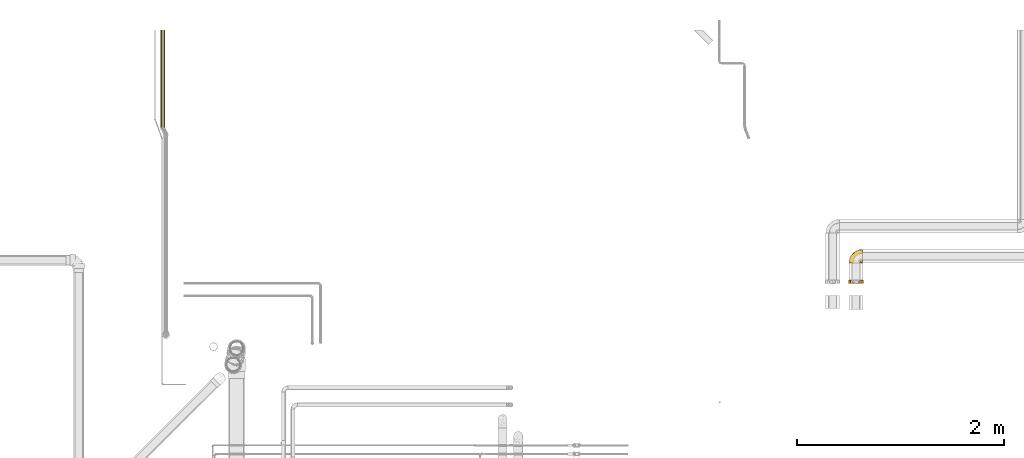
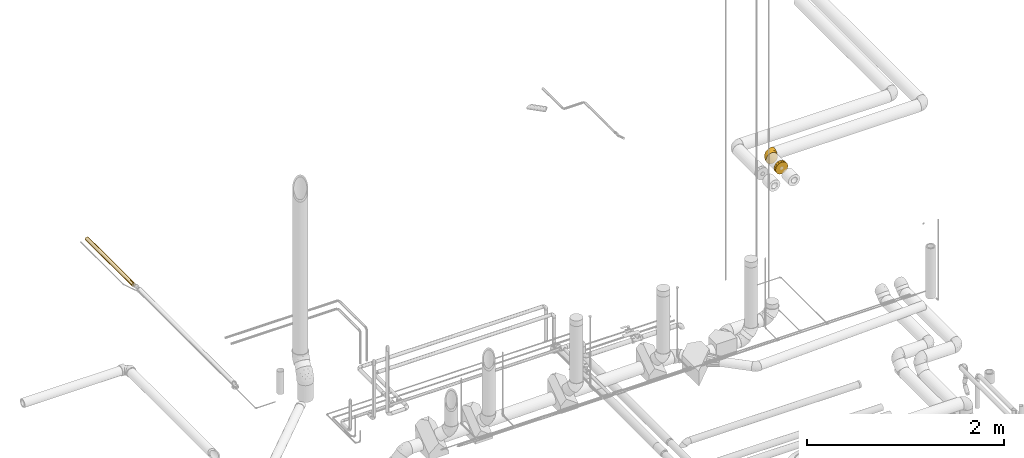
# One storey, part 33 of 156: 3 coverings.
"""IFC2X3 building model written with IfcOpenShell, lengths in millimetres."""

from ifc_helpers import new_model, entity, si_unit, converted_unit, derived_unit, direction, frame, origin_with_axes, place, context, subcontext, project, spatial, open_shell, faceted_brep, surface_model, source, transform, mapped, element, save


model = new_model("IFC2X3")

# Units and contexts
model_context = context("Model", 3, precision=0.01, world=frame((0.0, 4.29681676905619e-09, 0.0)), true_north=direction((4.01073788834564e-13, 1.0)))
plan_context = context("Plan", 3, precision=0.01, world=frame((0.0, 4.29681676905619e-09, 0.0)), true_north=direction((4.01073788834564e-13, 1.0)))
body_context = subcontext(model_context, "Body", "Model", "MODEL_VIEW")
ifc_project = project(units=[converted_unit("PLANEANGLEUNIT", "DEGREE", entity("IfcPositiveLengthMeasure", 0.0174532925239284), si_unit("PLANEANGLEUNIT", "RADIAN"), dimensions=[0, 0, 0, 0, 0, 0, 0]), si_unit("AREAUNIT", "SQUARE_METRE"), si_unit("LENGTHUNIT", "METRE", prefix="MILLI"), si_unit("MASSUNIT", "GRAM", prefix="KILO"), si_unit("POWERUNIT", "WATT"), si_unit("PRESSUREUNIT", "PASCAL", prefix="KILO"), si_unit("FORCEUNIT", "NEWTON", prefix="KILO"), si_unit("ELECTRICVOLTAGEUNIT", "VOLT"), si_unit("ELECTRICCURRENTUNIT", "AMPERE"), si_unit("THERMODYNAMICTEMPERATUREUNIT", "DEGREE_CELSIUS"), si_unit("TIMEUNIT", "SECOND"), si_unit("VOLUMEUNIT", "CUBIC_METRE"), derived_unit("LINEARVELOCITYUNIT", [(si_unit("LENGTHUNIT", "METRE"), 1), (si_unit("TIMEUNIT", "SECOND"), -1)]), derived_unit("VOLUMETRICFLOWRATEUNIT", [(si_unit("VOLUMEUNIT", "CUBIC_METRE"), 1), (si_unit("TIMEUNIT", "SECOND"), -1)]), derived_unit("THERMALTRANSMITTANCEUNIT", [(si_unit("POWERUNIT", "WATT"), 1), (si_unit("THERMODYNAMICTEMPERATUREUNIT", "KELVIN"), -1), (si_unit("AREAUNIT", "SQUARE_METRE"), -1)]), derived_unit("SOUNDPRESSUREUNIT", [(si_unit("PRESSUREUNIT", "PASCAL"), 1)])], contexts=[model_context, plan_context])

# Site, building, storey
site_placement = place(None, frame((0.0, -4.29681676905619e-09, 0.0), z_axis=(0.0, 0.0, 1.0), x_axis=(1.0, 0.0, 0.0)))
site = spatial("IfcSite", under=ifc_project, at=site_placement, CompositionType="ELEMENT")
building_placement = place(site_placement, frame((0.0, 4.29681676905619e-09, 0.0), z_axis=(0.0, 0.0, 1.0), x_axis=(1.0, 0.0, 0.0)))
building = spatial("IfcBuilding", under=site, at=building_placement, Name="mc-building", CompositionType="ELEMENT")
storey_placement = place(building_placement, frame((0.0, 0.0, 205200.0), z_axis=(0.0, 0.0, 1.0), x_axis=(1.0, 0.0, 0.0)))
storey = spatial("IfcBuildingStorey", under=building, at=storey_placement, Name="Nivå D + 1,2 m", CompositionType="ELEMENT", Elevation=205200.0)

# Coverings
shared_shape_1 = source(origin_with_axes(), body_context, "Body", "SurfaceModel", [
    surface_model("IfcShellBasedSurfaceModel", [(-43.5547, 44.96693, -57.31564), (-37.17681, 51.38248, -58.29813), (-28.84083, 40.49017, -64.0456), (1.25004, -49.74839, 0.0), (14.49536, -38.60037, 15.9628), (-5.84635, -51.68874, 14.9401), (-24.35905, 37.39026, 65.60842), (-38.97334, 49.10619, 58.01476), (-45.47019, 40.87926, 58.33251), (62.36367, 64.9998, 25.82703), (13.1733, 64.99988, 66.20209), (25.83785, 64.99986, 62.35913), (56.12765, 64.99981, 37.49598), (37.50764, 64.99983, 56.11983), (66.20371, 64.99979, 13.1656), (47.735, 64.99982, 47.72452), (0.0001, 64.9999, 67.5), (67.5001, 64.99979, 0.0), (66.2022, 64.99979, -13.1732), (-14.37391, 64.99992, 65.95178), (62.35923, 64.9998, -25.83774), (-28.0914, 64.99994, 61.37685), (56.11993, 64.99981, -37.50754), (-40.51971, 64.99996, 53.98514), (37.49608, 64.99983, -56.12755), (-59.31256, 64.99999, 32.22201), (-51.08844, 64.99998, 44.11588), (47.72463, 64.99982, -47.7349), (-64.81465, 65.0, -18.84935), (-64.81465, 65.0, 18.84935), (25.82713, 64.99986, -62.36357), (-40.52228, 64.99996, -53.98321), (-51.09054, 64.99998, -44.11345), (-59.31408, 64.99999, -32.21921), (-28.09432, 64.99994, -61.37551), (-14.37702, 64.99992, -65.95111), (0.0001, 64.9999, -67.5), (13.1657, 64.99988, -66.2036), (-64.9999, 64.81475, -18.84935), (-64.9999, 57.87557, -34.73714), (-64.9999, 33.25277, -58.74099), (-64.9999, 17.19351, -65.27353), (-64.9999, 47.11836, -48.33333), (-64.9999, 64.81475, 18.84935), (-64.9999, 0.0, -67.5), (-64.9999, 57.87557, 34.73714), (-64.9999, -47.72971, -47.72971), (-64.9999, 47.11836, 48.33333), (-64.9999, -33.75, -58.45672), (-64.9999, 33.25277, 58.74099), (-64.9999, -65.19999, -17.47029), (-64.9999, 17.19351, 65.27353), (-64.9999, -58.45672, -33.75), (-64.9999, -67.5, 0.0), (-64.9999, 0.0, 67.5), (-64.9999, -17.47029, -65.19999), (-64.9999, -33.75, 58.45672), (-64.9999, -58.45672, 33.75), (-64.9999, -47.72971, 47.72971), (-64.9999, -65.19999, 17.47029), (-64.9999, -17.47029, 65.19999), (-64.86891, 64.86901, 18.84935), (-64.86891, 64.86901, -18.84935), (-62.35287, 53.22925, -41.88204), (-63.78413, 60.63472, -29.99667), (-59.45908, 54.28288, -41.88204), (-51.69955, 42.79726, -55.00915), (-58.92622, 41.28656, -53.98417), (-64.97479, 64.82515, -18.84935), (-60.99551, 60.00361, -33.50592), (-62.83424, 60.76841, -30.44039), (-64.90165, 64.85544, -18.84935), (-50.86672, 28.04405, -62.52499), (-57.92372, 24.04778, -63.29908), (-50.90158, 14.37918, -66.34141), (-37.08644, 31.39032, -64.04773), (-29.58174, 11.99292, -67.5), (-40.36843, 19.80166, -66.13097), (-55.46365, 1.89687, -67.5), (-54.19131, 53.04137, -46.55035), (-23.48787, 51.53453, -64.03169), (-35.44204, 58.5137, -57.87456), (-1.89679, 55.46366, -67.5), (-19.03799, 19.03802, -67.5), (-45.93358, 58.13989, -50.54546), (-64.83545, 64.94978, -18.84935), (-4.94776, 40.1255, -67.5), (-64.85218, 64.9094, -18.84935), (-55.95494, 62.16729, -38.38718), (-59.35279, 60.73167, -34.66089), (-49.05017, 54.80727, -49.33215), (-11.99287, 29.58176, -67.5), (-64.9344, 64.84188, -18.84935), (-40.1255, 4.94782, -67.5), (-52.74624, 2.4374, -67.5), (-42.51148, -9.52296, -66.2671), (62.98523, 30.70631, 0.0), (60.34866, 32.10986, -19.59988), (7.28213, 26.69235, -65.37446), (17.51578, 46.37911, -64.59456), (25.45059, 30.4777, -59.53215), (-9.86709, -24.12513, -54.51842), (-12.17275, -41.13064, -41.0914), (-38.26542, -37.66767, -53.55135), (-32.07924, -19.65533, -62.36187), (-9.01237, -1.18967, -63.9192), (38.39194, 36.73603, -52.6938), (30.43403, 48.70755, -59.53215), (28.69168, -28.69172, 0.0), (13.27409, -37.00879, -22.67012), (38.50329, -14.42094, -16.45738), (49.7484, -1.25012, 0.0), (-26.34535, -2.34013, -66.30486), (-28.99863, -57.16773, -25.83113), (-40.01137, -50.88785, -41.0914), (-40.23856, -63.93245, -12.73066), (-49.4846, -21.90435, -63.359), (18.34903, -3.39099, -52.18245), (35.49002, 13.46247, -47.52342), (28.03746, -10.89196, -39.04005), (-2.47383, 52.5627, -67.5), (13.31744, 11.06364, -60.42055), (48.33705, 35.26217, -42.82742), (55.58248, 33.90758, -31.82524), (47.19622, 10.97416, -31.82591), (10.54857, -30.74413, -36.21717), (1.99996, -27.22633, -46.4308), (-14.75376, -56.30505, -12.67322), (-7.01771, -49.35416, -23.66959), (51.32467, 7.67025, -19.29113), (-30.70641, -62.98518, 0.0), (0.24409, 12.31901, -64.81241), (3.67012, -5.45981, -58.66435), (36.98054, -9.37953, -28.42457), (48.52835, 33.96507, 42.18547), (51.34604, 20.59416, 31.81466), (57.75623, 44.04311, 31.81466), (-28.34106, -60.77084, 14.13005), (-16.26064, -52.66703, 25.83113), (-42.88375, -60.42696, 25.83113), (37.50833, -13.65748, 20.81993), (22.23874, 22.99195, 59.52614), (16.82995, 43.52871, 64.59175), (5.2727, 25.31157, 65.6474), (35.12369, 13.65035, 47.93511), (15.62004, -0.76289, 55.06473), (25.5896, -9.33215, 42.81638), (39.0394, -2.37855, 32.87761), (-2.14319, -36.32509, 40.18049), (-17.72497, -29.97612, 53.55135), (-34.31656, -49.51181, 41.0914), (-42.65812, -9.037, 66.36346), (-39.32474, -22.12681, 62.36187), (-52.74624, 2.4374, 67.5), (18.51019, -28.28039, 30.53112), (-42.6377, -38.70784, 53.55135), (-27.5829, -2.4399, 66.40218), (-40.1255, 4.94782, 67.5), (61.4158, 36.47243, 19.59063), (52.44202, 9.85622, 19.09181), (39.29709, 37.63411, 52.17338), (28.75861, 40.82417, 59.5265), (-0.80848, -10.86719, 58.08848), (-25.06941, -14.25061, 63.18685), (-6.08756, 12.63634, 66.07006), (-29.58174, 11.99292, 67.5), (-2.47383, 52.5627, 67.5), (-4.94776, 40.1255, 67.5), (8.13233, 9.8596, 62.04196), (4.6081, -20.53973, 50.05705), (-11.99287, 29.58176, 67.5), (-19.03799, 19.03802, 67.5), (-12.13002, -4.712, 63.64216), (-55.46365, 1.89687, 67.5), (-51.3104, 50.10806, 50.51454), (-58.83052, 56.06253, 40.31266), (-53.07535, 43.62193, 53.98417), (-61.39658, 53.48595, 41.88204), (-59.33193, 41.18633, 53.98417), (-38.67684, 30.21324, 64.02578), (-40.80833, 18.7784, 66.26938), (-53.18283, 27.23963, 62.52499), (-62.39314, 61.71269, 29.30961), (-62.71982, 60.35039, 31.26735), (-55.8759, 57.84762, 41.27918), (-48.33578, 52.86997, 50.85178), (-52.1569, 58.33042, 44.7563), (-50.7225, 13.73619, 66.46323), (-63.7209, 60.14875, 30.95628), (-23.3781, 51.86768, 64.03271), (-1.89679, 55.46366, 67.5), (-36.1692, 55.06085, 58.01476), (-61.4953, 62.0558, 30.08874), (-64.85218, 64.9094, 18.84935), (-46.94641, 59.30385, 49.33434), (-64.83545, 64.94978, 18.84935), (-57.76515, 62.98421, 35.37213), (-59.8703, 62.17047, 32.53463), (-64.90929, 64.85228, 18.84935), (-64.94968, 64.83555, 18.84935)], [open_shell([[[0, 1, 2]], [[3, 4, 5]], [[6, 7, 8]], [[9, 10, 11]], [[12, 11, 13]], [[14, 10, 9]], [[12, 9, 11]], [[15, 12, 13]], [[16, 10, 17]], [[16, 18, 19]], [[19, 20, 21]], [[21, 22, 23]], [[24, 25, 26]], [[27, 26, 23]], [[28, 29, 25]], [[10, 14, 17]], [[18, 20, 19]], [[21, 20, 22]], [[24, 26, 27]], [[30, 25, 24]], [[27, 23, 22]], [[25, 30, 28]], [[31, 32, 28]], [[33, 28, 32]], [[31, 28, 34]], [[35, 28, 36]], [[34, 28, 35]], [[36, 28, 37]], [[28, 30, 37]], [[18, 16, 17]], [[38, 39, 40]], [[40, 41, 38]], [[40, 39, 42]], [[43, 38, 44]], [[45, 46, 47]], [[48, 45, 43]], [[49, 50, 51]], [[52, 49, 47]], [[51, 53, 54]], [[41, 44, 38]], [[55, 48, 43]], [[45, 48, 46]], [[52, 50, 49]], [[52, 47, 46]], [[50, 53, 51]], [[56, 57, 58]], [[59, 56, 60]], [[56, 59, 57]], [[59, 60, 53]], [[54, 53, 60]], [[55, 43, 44]], [[38, 43, 61]], [[62, 38, 61]], [[29, 28, 61]], [[62, 61, 28]], [[63, 64, 65]], [[66, 67, 65]], [[39, 38, 68]], [[63, 67, 42]], [[69, 70, 71]], [[67, 72, 73]], [[41, 73, 74]], [[75, 76, 77]], [[74, 73, 72]], [[41, 74, 78]], [[65, 79, 66]], [[34, 80, 81]], [[39, 63, 42]], [[35, 36, 82]], [[83, 75, 2]], [[84, 31, 81]], [[31, 84, 32]], [[67, 40, 42]], [[67, 66, 72]], [[85, 28, 33]], [[69, 79, 65]], [[75, 0, 2]], [[86, 80, 82]], [[87, 88, 89]], [[33, 88, 85]], [[35, 82, 80]], [[35, 80, 34]], [[74, 72, 77]], [[80, 1, 81]], [[33, 32, 88]], [[89, 90, 79]], [[66, 75, 72]], [[0, 66, 79]], [[1, 0, 90]], [[68, 64, 39]], [[67, 63, 65]], [[79, 69, 89]], [[0, 79, 90]], [[87, 85, 88]], [[88, 90, 89]], [[2, 1, 80]], [[66, 0, 75]], [[2, 86, 91]], [[64, 68, 92]], [[78, 74, 93]], [[78, 44, 41]], [[77, 72, 75]], [[89, 62, 87]], [[93, 74, 77]], [[70, 65, 64]], [[62, 89, 69]], [[84, 81, 1]], [[1, 90, 84]], [[34, 81, 31]], [[90, 88, 84]], [[32, 84, 88]], [[64, 92, 70]], [[39, 64, 63]], [[71, 62, 69]], [[69, 65, 70]], [[70, 92, 71]], [[41, 40, 73]], [[67, 73, 40]], [[76, 75, 83]], [[76, 93, 77]], [[86, 2, 80]], [[91, 83, 2]], [[94, 95, 55]], [[94, 93, 95]], [[18, 96, 97]], [[98, 99, 100]], [[101, 102, 103]], [[101, 104, 105]], [[106, 100, 107]], [[108, 3, 109]], [[108, 110, 111]], [[30, 99, 37]], [[83, 105, 112]], [[20, 18, 97]], [[113, 52, 114]], [[50, 115, 53]], [[110, 108, 109]], [[52, 113, 50]], [[52, 46, 114]], [[48, 103, 46]], [[116, 103, 48]], [[117, 118, 119]], [[120, 36, 37]], [[100, 118, 121]], [[27, 22, 122]], [[106, 27, 122]], [[55, 95, 116]], [[123, 97, 124]], [[107, 99, 30]], [[37, 99, 120]], [[125, 102, 126]], [[127, 115, 113]], [[109, 3, 127]], [[128, 102, 125]], [[111, 110, 129]], [[127, 3, 130]], [[106, 118, 100]], [[129, 96, 111]], [[123, 22, 20]], [[131, 132, 105]], [[18, 17, 96]], [[122, 123, 124]], [[117, 121, 118]], [[98, 86, 99]], [[101, 103, 104]], [[24, 107, 30]], [[114, 103, 102]], [[131, 91, 98]], [[109, 125, 133]], [[97, 129, 124]], [[112, 104, 95]], [[126, 119, 125]], [[98, 121, 131]], [[121, 98, 100]], [[24, 27, 106]], [[99, 107, 100]], [[106, 107, 24]], [[106, 122, 118]], [[122, 124, 118]], [[119, 118, 124]], [[133, 119, 124]], [[119, 133, 125]], [[103, 114, 46]], [[113, 114, 102]], [[55, 44, 94]], [[112, 95, 93]], [[95, 104, 116]], [[112, 93, 76]], [[104, 112, 105]], [[103, 116, 104]], [[48, 55, 116]], [[132, 121, 117]], [[121, 132, 131]], [[115, 127, 130]], [[128, 127, 113]], [[53, 115, 130]], [[113, 115, 50]], [[126, 132, 117]], [[83, 112, 76]], [[101, 105, 132]], [[105, 83, 131]], [[129, 97, 96]], [[102, 128, 113]], [[109, 127, 128]], [[22, 123, 122]], [[20, 97, 123]], [[99, 86, 120]], [[91, 131, 83]], [[91, 86, 98]], [[133, 129, 110]], [[129, 133, 124]], [[109, 133, 110]], [[128, 125, 109]], [[126, 102, 101]], [[132, 126, 101]], [[119, 126, 117]], [[134, 135, 136]], [[53, 130, 137]], [[138, 139, 137]], [[111, 140, 108]], [[141, 142, 143]], [[144, 145, 146]], [[108, 4, 3]], [[5, 4, 138]], [[146, 147, 144]], [[148, 149, 150]], [[151, 60, 152]], [[60, 151, 153]], [[154, 4, 140]], [[155, 152, 56]], [[56, 58, 155]], [[156, 157, 151]], [[144, 147, 135]], [[57, 139, 150]], [[56, 152, 60]], [[108, 140, 4]], [[158, 135, 159]], [[155, 150, 149]], [[134, 15, 160]], [[147, 140, 159]], [[14, 9, 158]], [[15, 13, 160]], [[142, 11, 10]], [[158, 9, 136]], [[17, 14, 96]], [[161, 13, 11]], [[162, 163, 149]], [[57, 150, 58]], [[164, 165, 156]], [[142, 141, 161]], [[57, 59, 139]], [[144, 135, 134]], [[10, 166, 142]], [[159, 96, 158]], [[143, 142, 167]], [[161, 141, 160]], [[96, 14, 158]], [[147, 159, 135]], [[145, 141, 168]], [[12, 136, 9]], [[148, 150, 138]], [[149, 148, 169]], [[154, 146, 148]], [[5, 138, 137]], [[154, 138, 4]], [[169, 146, 145]], [[12, 15, 134]], [[158, 136, 135]], [[134, 136, 12]], [[134, 160, 144]], [[160, 141, 144]], [[145, 144, 141]], [[168, 141, 143]], [[162, 149, 169]], [[164, 170, 171]], [[143, 164, 168]], [[150, 155, 58]], [[152, 155, 149]], [[153, 151, 157]], [[153, 54, 60]], [[156, 163, 172]], [[163, 151, 152]], [[156, 172, 164]], [[140, 111, 159]], [[165, 157, 156]], [[96, 159, 111]], [[154, 140, 147]], [[138, 154, 148]], [[151, 163, 156]], [[149, 163, 152]], [[59, 53, 137]], [[150, 139, 138]], [[59, 137, 139]], [[5, 130, 3]], [[130, 5, 137]], [[170, 164, 143]], [[162, 168, 172]], [[164, 171, 165]], [[172, 168, 164]], [[146, 169, 148]], [[162, 169, 145]], [[168, 162, 145]], [[162, 172, 163]], [[13, 161, 160]], [[11, 142, 161]], [[166, 10, 16]], [[166, 167, 142]], [[154, 147, 146]], [[143, 167, 170]], [[51, 54, 173]], [[174, 175, 176]], [[176, 177, 178]], [[178, 47, 49]], [[179, 180, 165]], [[179, 176, 181]], [[175, 182, 183]], [[6, 179, 171]], [[178, 49, 181]], [[184, 185, 186]], [[175, 177, 176]], [[177, 45, 47]], [[181, 187, 180]], [[188, 177, 183]], [[189, 190, 19]], [[7, 186, 185]], [[21, 23, 191]], [[61, 192, 193]], [[6, 189, 7]], [[191, 23, 194]], [[25, 29, 195]], [[189, 6, 167]], [[49, 51, 181]], [[196, 26, 25]], [[19, 190, 16]], [[194, 23, 26]], [[174, 184, 175]], [[7, 189, 191]], [[192, 184, 197]], [[21, 189, 19]], [[187, 173, 157]], [[43, 45, 188]], [[7, 185, 8]], [[176, 178, 181]], [[167, 190, 189]], [[177, 47, 178]], [[6, 171, 170]], [[61, 182, 192]], [[182, 184, 192]], [[180, 187, 157]], [[173, 187, 51]], [[51, 187, 181]], [[165, 171, 179]], [[181, 180, 179]], [[180, 157, 165]], [[8, 174, 176]], [[185, 184, 174]], [[176, 179, 8]], [[8, 179, 6]], [[8, 185, 174]], [[186, 7, 194]], [[196, 186, 194]], [[197, 195, 193]], [[26, 196, 194]], [[25, 195, 196]], [[184, 186, 197]], [[186, 196, 197]], [[195, 197, 196]], [[193, 192, 197]], [[182, 175, 184]], [[61, 198, 182]], [[199, 188, 183]], [[183, 182, 198]], [[199, 183, 198]], [[177, 175, 183]], [[43, 188, 199]], [[45, 177, 188]], [[191, 189, 21]], [[194, 7, 191]], [[167, 6, 170]]])]),
])
covering_1_placement = place(storey_placement, frame((330305.51811, 465309.02232, 4223.13191), z_axis=(-0.0167419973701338, 0.0, 0.999859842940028), x_axis=(-0.999859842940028, 0.0, -0.0167419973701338)))
element("IfcCovering", 1, at=covering_1_placement, inside=storey, Name="BI10T - Cellegummi 18-32 mm kalde rør", PredefinedType="INSULATION", context=body_context, shape_type="MappedRepresentation", body=[
    mapped(shared_shape_1, transform((0.0, 0.0, 0.0), scale=1.0)),
])
shared_shape_2 = source(origin_with_axes(), body_context, "Body", "SurfaceModel", [
    surface_model("IfcShellBasedSurfaceModel", [(0.0, 51.6895, 51.6895), (0.0, 67.53559, 27.97416), (0.0, 27.97416, 67.53559), (0.0, -73.1, 0.0), (0.0, -67.53559, 27.97416), (0.0, -51.6895, 51.6895), (33.8, 73.1, 0.0), (33.8, -27.97416, 67.53559), (33.8, -51.6895, 51.6895), (33.8, -67.53559, 27.97416), (33.8, 67.53559, 27.97416), (33.8, 0.0, 73.1), (33.8, 27.97416, 67.53559), (33.8, 51.6895, 51.6895), (33.8, -73.1, 0.0), (33.8, -67.53559, -27.97416), (33.8, -51.6895, -51.6895), (33.8, -27.97416, -67.53559), (33.8, 0.0, -73.1), (33.8, 27.97416, -67.53559), (33.8, 67.53559, -27.97416), (33.8, 51.6895, -51.6895), (0.0, 0.0, 73.1), (0.0, -27.97416, 67.53559), (0.0, 27.97416, -67.53559), (0.0, -67.53559, -27.97416), (0.0, 73.1, 0.0), (0.0, 67.53559, -27.97416), (0.0, 51.6895, -51.6895), (0.0, -51.6895, -51.6895), (0.0, 0.0, -73.1), (0.0, -27.97416, -67.53559), (0.0, -70.3178, -13.98708), (33.8, -70.3696, -13.72663), (0.0, -59.61255, -39.83183), (33.8, -59.61255, -39.83183), (33.8, -39.83183, -59.61255), (0.0, -13.98708, -70.3178), (33.8, -13.98708, -70.3178), (0.0, -39.83183, -59.61255), (0.0, 13.98708, -70.3178), (33.8, 13.72663, -70.3696), (0.0, 39.83183, -59.61255), (33.8, 39.83183, -59.61255), (33.8, 59.61255, -39.83183), (0.0, 70.3178, -13.98708), (33.8, 70.3178, -13.98708), (0.0, 59.61255, -39.83183), (0.0, 70.3178, 13.98708), (33.8, 70.3696, 13.72663), (0.0, 59.61255, 39.83183), (33.8, 59.61255, 39.83183), (33.8, 39.83183, 59.61255), (0.0, 13.98708, 70.3178), (33.8, 13.98708, 70.3178), (0.0, 39.83183, 59.61255), (0.0, -13.98708, 70.3178), (33.8, -13.72663, 70.3696), (0.0, -39.83183, 59.61255), (33.8, -39.83183, 59.61255), (33.8, -59.61255, 39.83183), (0.0, -70.3178, 13.98708), (33.8, -70.3178, 13.98708), (0.0, -59.61255, 39.83183)], [open_shell([[[0, 1, 2]], [[3, 4, 5]], [[6, 7, 8]], [[8, 9, 6]], [[10, 7, 6]], [[11, 7, 12]], [[10, 13, 12]], [[7, 10, 12]], [[14, 6, 9]], [[15, 16, 17]], [[17, 18, 15]], [[15, 18, 19]], [[20, 6, 21]], [[19, 21, 6]], [[6, 15, 19]], [[15, 6, 14]], [[22, 2, 1]], [[22, 1, 23]], [[5, 23, 24]], [[5, 25, 3]], [[24, 23, 1]], [[26, 27, 28]], [[28, 24, 26]], [[24, 25, 5]], [[25, 24, 29]], [[30, 31, 29]], [[24, 30, 29]], [[24, 1, 26]], [[15, 32, 25]], [[33, 3, 32]], [[16, 34, 29]], [[15, 33, 32]], [[3, 33, 14]], [[35, 25, 34]], [[29, 36, 16]], [[37, 18, 38]], [[18, 37, 30]], [[38, 31, 37]], [[36, 29, 39]], [[35, 15, 25]], [[39, 31, 17]], [[39, 17, 36]], [[38, 17, 31]], [[34, 16, 35]], [[19, 40, 24]], [[41, 30, 40]], [[21, 42, 28]], [[19, 41, 40]], [[30, 41, 18]], [[43, 24, 42]], [[28, 44, 21]], [[45, 6, 46]], [[6, 45, 26]], [[46, 27, 45]], [[44, 28, 47]], [[43, 19, 24]], [[47, 27, 20]], [[47, 20, 44]], [[46, 20, 27]], [[42, 21, 43]], [[10, 48, 1]], [[49, 26, 48]], [[13, 50, 0]], [[10, 49, 48]], [[26, 49, 6]], [[51, 1, 50]], [[0, 52, 13]], [[53, 11, 54]], [[11, 53, 22]], [[54, 2, 53]], [[52, 0, 55]], [[51, 10, 1]], [[55, 2, 12]], [[55, 12, 52]], [[54, 12, 2]], [[50, 13, 51]], [[7, 56, 23]], [[57, 22, 56]], [[8, 58, 5]], [[7, 57, 56]], [[22, 57, 11]], [[59, 23, 58]], [[5, 60, 8]], [[61, 14, 62]], [[14, 61, 3]], [[62, 4, 61]], [[60, 5, 63]], [[59, 7, 23]], [[63, 4, 9]], [[63, 9, 60]], [[62, 9, 4]], [[58, 8, 59]]])]),
])
covering_2_placement = place(storey_placement, frame((330305.51743, 465044.08332, 4222.99755), z_axis=(0.0, -0.000372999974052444, 0.999999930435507), x_axis=(1.99999986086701e-06, 0.999999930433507, 0.000372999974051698)))
element("IfcCovering", 2, at=covering_2_placement, inside=storey, Name="BI10T - Cellegummi 18-32 mm kalde rør", PredefinedType="INSULATION", context=body_context, shape_type="MappedRepresentation", body=[
    mapped(shared_shape_2, transform((0.0, 0.0, 0.0), scale=1.0)),
])
covering_3_placement = place(storey_placement, frame((323593.87367, 469075.34417, 4210.50902999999), z_axis=(0.0, 0.0, 1.0), x_axis=(0.0, -1.0, 0.0)))
element("IfcCovering", 3, at=covering_3_placement, inside=storey, Name="BI15T - Cellegummi KV 15mm", PredefinedType="INSULATION", context=body_context, shape_type="Brep", body=[
    faceted_brep([(1575.34417000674, 8.86326977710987, -1.56283359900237), (1575.34417000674, 9.0, 0.0), (2520.2, 9.0, 0.0), (2520.2, 8.86326977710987, -1.56283359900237), (1575.34417000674, 8.45723358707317, -3.07818128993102), (2520.2, 8.45723358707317, -3.07818128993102), (1575.34417000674, 7.79422863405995, -4.5), (2520.2, 7.79422863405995, -4.5), (1575.34417000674, 6.8943999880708, -5.78508848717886), (2520.2, 6.8943999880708, -5.78508848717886), (1575.34417000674, 5.78508848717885, -6.8943999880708), (2520.2, 5.78508848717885, -6.8943999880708), (1575.34417000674, 4.5, -7.79422863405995), (2520.2, 4.5, -7.79422863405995), (1575.34417000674, 3.07818128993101, -8.45723358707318), (2520.2, 3.07818128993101, -8.45723358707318), (1575.34417000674, 1.56283359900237, -8.86326977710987), (2520.2, 1.56283359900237, -8.86326977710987), (1575.34417000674, -1.65327317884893e-15, -9.0), (2520.2, -1.65327317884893e-15, -9.0), (1575.34417000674, -1.56283359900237, -8.86326977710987), (2520.2, -1.56283359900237, -8.86326977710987), (1575.34417000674, -3.07818128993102, -8.45723358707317), (2520.2, -3.07818128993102, -8.45723358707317), (1575.34417000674, -4.5, -7.79422863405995), (2520.2, -4.5, -7.79422863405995), (1575.34417000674, -5.78508848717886, -6.8943999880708), (2520.2, -5.78508848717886, -6.8943999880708), (1575.34417000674, -6.8943999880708, -5.78508848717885), (2520.2, -6.8943999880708, -5.78508848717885), (1575.34417000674, -7.79422863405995, -4.5), (2520.2, -7.79422863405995, -4.5), (1575.34417000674, -8.45723358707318, -3.07818128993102), (2520.2, -8.45723358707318, -3.07818128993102), (1575.34417000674, -8.86326977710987, -1.56283359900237), (2520.2, -8.86326977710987, -1.56283359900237), (1575.34417000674, -9.0, 1.10218211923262e-15), (2520.2, -9.0, 1.10218211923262e-15), (1575.34417000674, -8.86326977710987, 1.56283359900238), (2520.2, -8.86326977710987, 1.56283359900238), (1575.34417000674, -8.45723358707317, 3.07818128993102), (2520.2, -8.45723358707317, 3.07818128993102), (1575.34417000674, -7.79422863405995, 4.5), (2520.2, -7.79422863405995, 4.5), (1575.34417000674, -6.8943999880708, 5.78508848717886), (2520.2, -6.8943999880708, 5.78508848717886), (1575.34417000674, -5.78508848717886, 6.8943999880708), (2520.2, -5.78508848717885, 6.8943999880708), (1575.34417000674, -4.5, 7.79422863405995), (2520.2, -4.5, 7.79422863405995), (1575.34417000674, -3.07818128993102, 8.45723358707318), (2520.2, -3.07818128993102, 8.45723358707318), (1575.34417000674, -1.56283359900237, 8.86326977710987), (2520.2, -1.56283359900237, 8.86326977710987), (1575.34417000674, 5.51091059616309e-16, 9.0), (2520.2, 5.51091059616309e-16, 9.0), (1575.34417000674, 1.56283359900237, 8.86326977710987), (2520.2, 1.56283359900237, 8.86326977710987), (1575.34417000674, 3.07818128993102, 8.45723358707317), (2520.2, 3.07818128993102, 8.45723358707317), (1575.34417000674, 4.5, 7.79422863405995), (2520.2, 4.5, 7.79422863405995), (1575.34417000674, 5.78508848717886, 6.8943999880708), (2520.2, 5.78508848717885, 6.8943999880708), (1575.34417000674, 6.8943999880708, 5.78508848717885), (2520.2, 6.8943999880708, 5.78508848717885), (1575.34417000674, 7.79422863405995, 4.5), (2520.2, 7.79422863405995, 4.5), (1575.34417000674, 8.45723358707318, 3.07818128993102), (2520.2, 8.45723358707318, 3.07818128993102), (1575.34417000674, 8.86326977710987, 1.56283359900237), (2520.2, 8.86326977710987, 1.56283359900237), (1575.34417000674, 22.0, 0.0), (1575.34417000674, 21.6657705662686, -3.82025990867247), (2520.2, 21.6657705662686, -3.82025990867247), (2520.2, 22.0, 0.0), (1575.34417000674, 21.6657705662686, 3.82025990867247), (2520.2, 21.6657705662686, 3.82025990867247), (1575.34417000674, 20.67323765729, 7.52444315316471), (2520.2, 20.67323765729, 7.52444315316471), (1575.34417000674, 19.0525588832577, 11.0), (2520.2, 19.0525588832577, 11.0), (1575.34417000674, 16.8529777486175, 14.1413274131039), (2520.2, 16.8529777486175, 14.1413274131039), (1575.34417000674, 14.1413274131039, 16.8529777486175), (2520.2, 14.1413274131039, 16.8529777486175), (1575.34417000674, 11.0, 19.0525588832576), (2520.2, 11.0, 19.0525588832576), (1575.34417000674, 7.52444315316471, 20.67323765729), (2520.2, 7.52444315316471, 20.67323765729), (1575.34417000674, 3.82025990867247, 21.6657705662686), (2520.2, 3.82025990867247, 21.6657705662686), (1575.34417000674, 1.34711147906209e-15, 22.0), (2520.2, 1.34711147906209e-15, 22.0), (1575.34417000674, -3.82025990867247, 21.6657705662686), (2520.2, -3.82025990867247, 21.6657705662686), (1575.34417000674, -7.52444315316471, 20.67323765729), (2520.2, -7.52444315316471, 20.67323765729), (1575.34417000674, -11.0, 19.0525588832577), (2520.2, -11.0, 19.0525588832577), (1575.34417000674, -14.1413274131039, 16.8529777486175), (2520.2, -14.1413274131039, 16.8529777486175), (1575.34417000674, -16.8529777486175, 14.1413274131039), (2520.2, -16.8529777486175, 14.1413274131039), (1575.34417000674, -19.0525588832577, 11.0), (2520.2, -19.0525588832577, 11.0), (1575.34417000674, -20.67323765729, 7.52444315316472), (2520.2, -20.67323765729, 7.52444315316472), (1575.34417000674, -21.6657705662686, 3.82025990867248), (2520.2, -21.6657705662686, 3.82025990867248), (1575.34417000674, -22.0, 2.69422295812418e-15), (2520.2, -22.0, 2.69422295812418e-15), (1575.34417000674, -21.6657705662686, -3.82025990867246), (2520.2, -21.6657705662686, -3.82025990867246), (1575.34417000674, -20.67323765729, -7.52444315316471), (2520.2, -20.67323765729, -7.52444315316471), (1575.34417000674, -19.0525588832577, -11.0), (2520.2, -19.0525588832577, -11.0), (1575.34417000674, -16.8529777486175, -14.1413274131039), (2520.2, -16.8529777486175, -14.1413274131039), (1575.34417000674, -14.1413274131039, -16.8529777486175), (2520.2, -14.1413274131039, -16.8529777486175), (1575.34417000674, -11.0, -19.0525588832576), (2520.2, -11.0, -19.0525588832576), (1575.34417000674, -7.52444315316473, -20.67323765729), (2520.2, -7.52444315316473, -20.67323765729), (1575.34417000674, -3.82025990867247, -21.6657705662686), (2520.2, -3.82025990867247, -21.6657705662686), (1575.34417000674, -4.04133443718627e-15, -22.0), (2520.2, -4.04133443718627e-15, -22.0), (1575.34417000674, 3.82025990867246, -21.6657705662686), (2520.2, 3.82025990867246, -21.6657705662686), (1575.34417000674, 7.5244431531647, -20.67323765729), (2520.2, 7.5244431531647, -20.67323765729), (1575.34417000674, 11.0, -19.0525588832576), (2520.2, 11.0, -19.0525588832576), (1575.34417000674, 14.1413274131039, -16.8529777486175), (2520.2, 14.1413274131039, -16.8529777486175), (1575.34417000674, 16.8529777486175, -14.1413274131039), (2520.2, 16.8529777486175, -14.1413274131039), (1575.34417000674, 19.0525588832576, -11.0), (2520.2, 19.0525588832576, -11.0), (1575.34417000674, 20.67323765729, -7.52444315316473), (2520.2, 20.67323765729, -7.52444315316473)], [[[0, 1, 2, 3]], [[4, 0, 3, 5]], [[6, 4, 5, 7]], [[8, 6, 7, 9]], [[10, 8, 9, 11]], [[12, 10, 11, 13]], [[14, 12, 13, 15]], [[16, 14, 15, 17]], [[18, 16, 17, 19]], [[20, 18, 19, 21]], [[22, 20, 21, 23]], [[24, 22, 23, 25]], [[26, 24, 25, 27]], [[28, 26, 27, 29]], [[30, 28, 29, 31]], [[32, 30, 31, 33]], [[34, 32, 33, 35]], [[36, 34, 35, 37]], [[38, 36, 37, 39]], [[40, 38, 39, 41]], [[42, 40, 41, 43]], [[44, 42, 43, 45]], [[46, 44, 45, 47]], [[48, 46, 47, 49]], [[50, 48, 49, 51]], [[52, 50, 51, 53]], [[54, 52, 53, 55]], [[56, 54, 55, 57]], [[58, 56, 57, 59]], [[60, 58, 59, 61]], [[62, 60, 61, 63]], [[64, 62, 63, 65]], [[66, 64, 65, 67]], [[68, 66, 67, 69]], [[70, 68, 69, 71]], [[1, 70, 71, 2]], [[72, 73, 74, 75]], [[76, 72, 75, 77]], [[78, 76, 77, 79]], [[80, 78, 79, 81]], [[82, 80, 81, 83]], [[84, 82, 83, 85]], [[86, 84, 85, 87]], [[88, 86, 87, 89]], [[90, 88, 89, 91]], [[92, 90, 91, 93]], [[94, 92, 93, 95]], [[96, 94, 95, 97]], [[98, 96, 97, 99]], [[100, 98, 99, 101]], [[102, 100, 101, 103]], [[104, 102, 103, 105]], [[106, 104, 105, 107]], [[108, 106, 107, 109]], [[110, 108, 109, 111]], [[112, 110, 111, 113]], [[114, 112, 113, 115]], [[116, 114, 115, 117]], [[118, 116, 117, 119]], [[120, 118, 119, 121]], [[122, 120, 121, 123]], [[124, 122, 123, 125]], [[126, 124, 125, 127]], [[128, 126, 127, 129]], [[130, 128, 129, 131]], [[132, 130, 131, 133]], [[134, 132, 133, 135]], [[136, 134, 135, 137]], [[138, 136, 137, 139]], [[140, 138, 139, 141]], [[142, 140, 141, 143]], [[73, 142, 143, 74]], [[75, 74, 143, 141, 139, 137, 135, 133, 131, 129, 127, 125, 123, 121, 119, 117, 115, 113, 111, 109, 107, 105, 103, 101, 99, 97, 95, 93, 91, 89, 87, 85, 83, 81, 79, 77], [2, 71, 69, 67, 65, 63, 61, 59, 57, 55, 53, 51, 49, 47, 45, 43, 41, 39, 37, 35, 33, 31, 29, 27, 25, 23, 21, 19, 17, 15, 13, 11, 9, 7, 5, 3]], [[76, 78, 80, 82, 84, 86, 88, 90, 92, 94, 96, 98, 100, 102, 104, 106, 108, 110, 112, 114, 116, 118, 120, 122, 124, 126, 128, 130, 132, 134, 136, 138, 140, 142, 73, 72], [4, 6, 8, 10, 12, 14, 16, 18, 20, 22, 24, 26, 28, 30, 32, 34, 36, 38, 40, 42, 44, 46, 48, 50, 52, 54, 56, 58, 60, 62, 64, 66, 68, 70, 1, 0]]], orient=[[False], [False], [False], [False], [False], [False], [False], [False], [False], [False], [False], [False], [False], [False], [False], [False], [False], [False], [False], [False], [False], [False], [False], [False], [False], [False], [False], [False], [False], [False], [False], [False], [False], [False], [False], [False], [False], [False], [False], [False], [False], [False], [False], [False], [False], [False], [False], [False], [False], [False], [False], [False], [False], [False], [False], [False], [False], [False], [False], [False], [False], [False], [False], [False], [False], [False], [False], [False], [False], [False], [False], [False], [False, False], [False, False]]),
])

save(model, "model.ifc")
